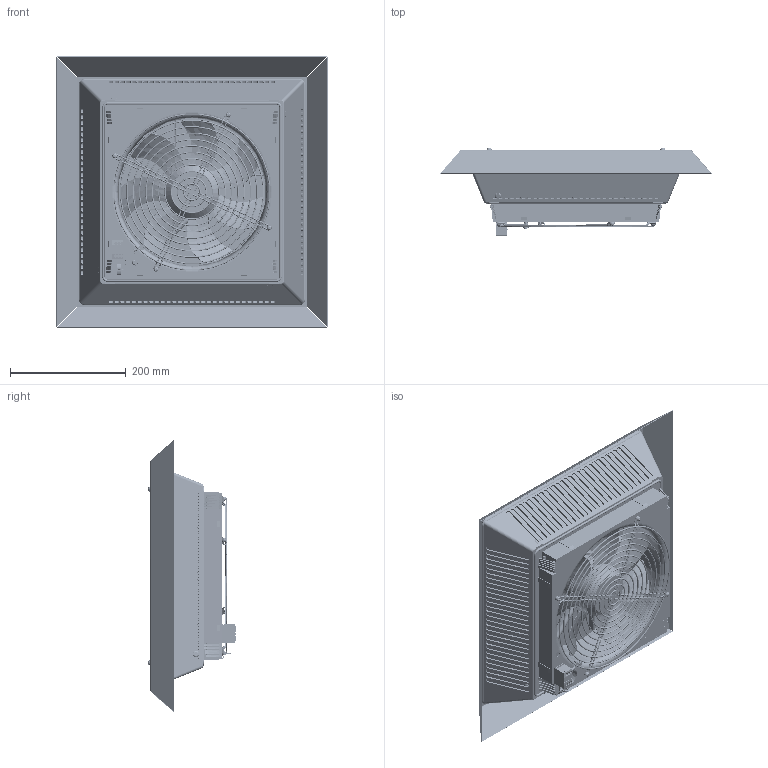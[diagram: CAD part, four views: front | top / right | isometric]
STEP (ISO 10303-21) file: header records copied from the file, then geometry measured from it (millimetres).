
FILE_DESCRIPTION (( 'STEP AP214' ), '1' );
FILE_NAME ('PTF 60700 _ 61000.STEP', '2011-07-05T06:50:32', ( ' ' ), ( ' ' ), 'SwSTEP 2.0', 'SolidWorks 2011', '' );
FILE_SCHEMA (( 'AUTOMOTIVE_DESIGN' ));
Length unit declared in the file: millimetre
Products named in the file (1): PTF 60700 _ 61000
Bounding box: 470 x 152.05 x 470 mm (x, y, z)
Volume: 3155510.8 mm3; surface area: 1647988.8 mm2
Topology: 78 solids, 78 shells, 9251 faces, 24962 edges, 16365 vertices
Faces by surface type: plane 5271, bspline 2229, cylinder 1112, cone 417, torus 212, sphere 10
Entity records: 496275 total; most frequent: CARTESIAN_POINT 175777, ORIENTED_EDGE 49712, DIRECTION 36755, EDGE_CURVE 24856, VERTEX_POINT 16365, VECTOR 16145, LINE 16145, AXIS2_PLACEMENT_3D 10305
